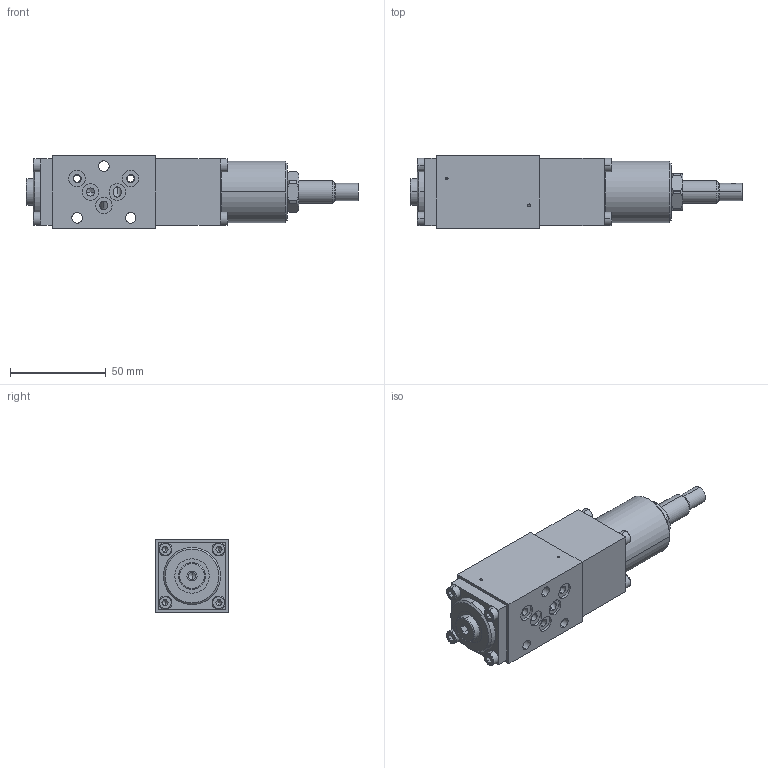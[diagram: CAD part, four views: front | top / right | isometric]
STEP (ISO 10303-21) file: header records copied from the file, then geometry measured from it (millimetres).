
FILE_DESCRIPTION (( 'STEP AP214' ), '1' );
FILE_NAME ('BDRVdA4.STEP', '2017-03-23T06:27:59', ( '' ), ( '' ), 'SwSTEP 2.0', 'SolidWorks 2016', '' );
FILE_SCHEMA (( 'AUTOMOTIVE_DESIGN' ));
Length unit declared in the file: millimetre
Products named in the file (1): BDRVdA4
Bounding box: 173.5 x 38 x 38 mm (x, y, z)
Volume: 156961.1 mm3; surface area: 32935.3 mm2
Topology: 3 solids, 17 shells, 507 faces, 1156 edges, 672 vertices
Faces by surface type: plane 196, cylinder 154, cone 111, torus 38, sphere 8
Entity records: 19973 total; most frequent: CARTESIAN_POINT 3018, DIRECTION 2529, ORIENTED_EDGE 2216, EDGE_CURVE 1108, AXIS2_PLACEMENT_3D 1001, VERTEX_POINT 672, EDGE_LOOP 574, LINE 527
